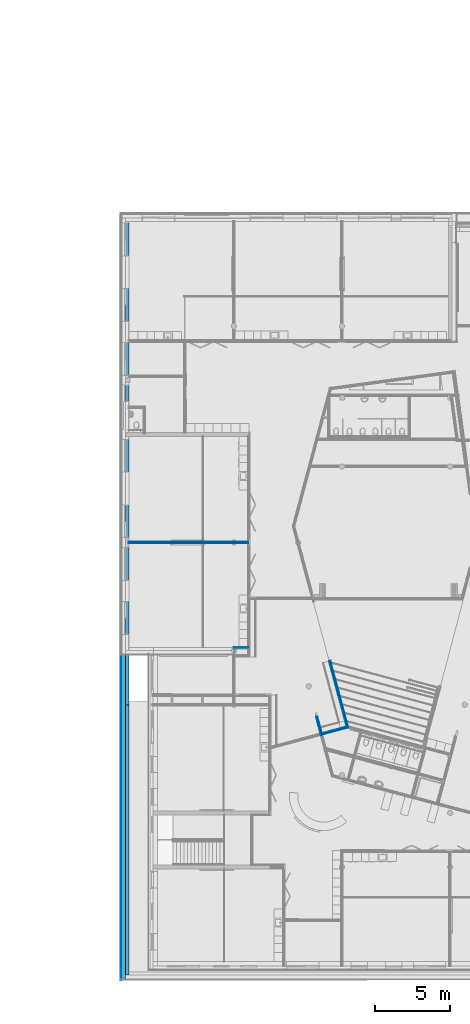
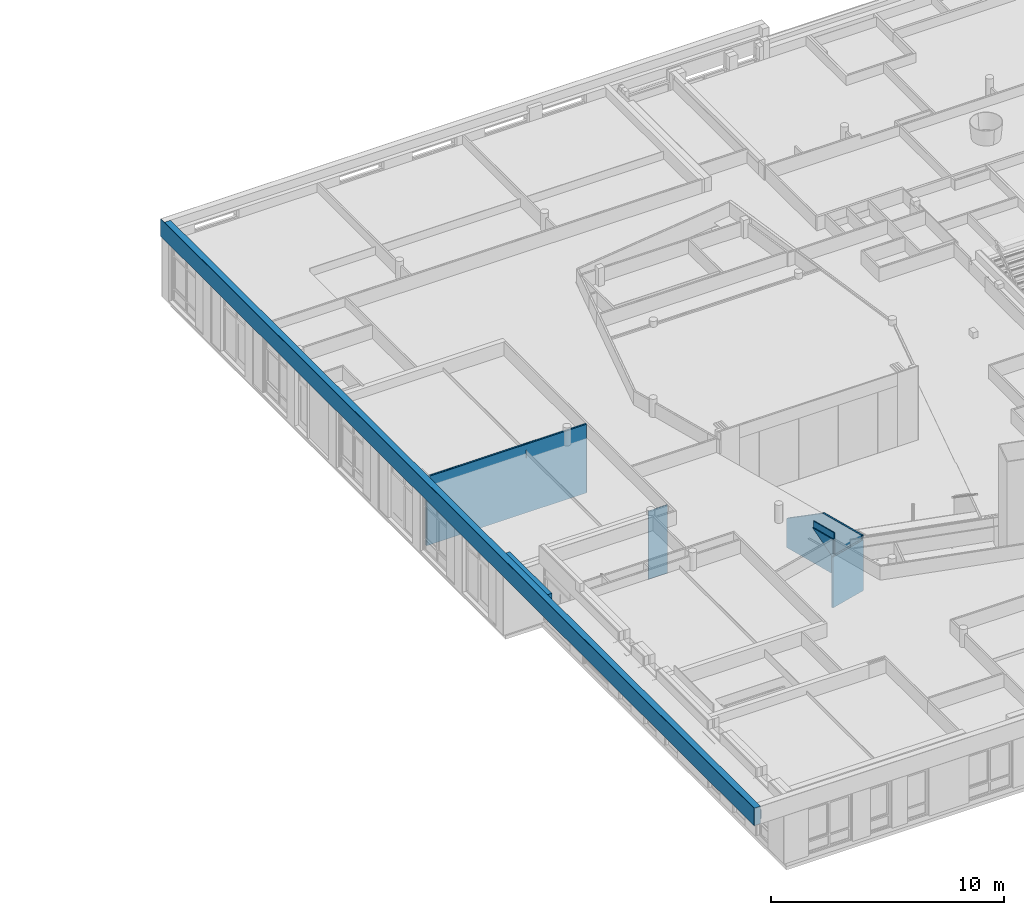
# One storey, part 59 of 167: 16 building element parts, 8 openings, 6 elements without a shape of their own.
"""IFC2X3 building model written with IfcOpenShell, lengths in millimetres."""

from ifc_helpers import new_model, entity, si_unit, converted_unit, derived_unit, money_unit, direction, frame, origin_with_axes, place, context, subcontext, project, spatial, faceted_brep, material, type_object, element, aggregate, save


model = new_model("IFC2X3")

# Units and contexts
model_context = context("Model", 3, precision=0.01, world=origin_with_axes(), true_north=direction((0.0, 1.0)))
plan_context = context("Plan", 3, precision=0.01, world=origin_with_axes(), true_north=direction((0.0, 1.0)))
body_context = subcontext(model_context, "Body", "Model", "MODEL_VIEW")
ifc_project = project(units=[si_unit("LENGTHUNIT", "METRE", prefix="MILLI"), si_unit("AREAUNIT", "SQUARE_METRE"), si_unit("VOLUMEUNIT", "CUBIC_METRE"), converted_unit("PLANEANGLEUNIT", "DEGREE", entity("IfcPlaneAngleMeasure", 0.0174532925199), si_unit("PLANEANGLEUNIT", "RADIAN"), dimensions=[0, 0, 0, 0, 0, 0, 0]), si_unit("SOLIDANGLEUNIT", "STERADIAN"), money_unit("EUR"), converted_unit("TIMEUNIT", "Year", entity("IfcTimeMeasure", 31556926.0), si_unit("TIMEUNIT", "SECOND"), dimensions=[0, 0, 1, 0, 0, 0, 0]), si_unit("MASSUNIT", "GRAM", prefix="KILO"), si_unit("THERMODYNAMICTEMPERATUREUNIT", "DEGREE_CELSIUS"), si_unit("LUMINOUSINTENSITYUNIT", "LUMEN"), si_unit("ENERGYUNIT", "JOULE", prefix="MEGA"), derived_unit("THERMALCONDUCTANCEUNIT", [(si_unit("POWERUNIT", "WATT"), 1), (si_unit("LENGTHUNIT", "METRE"), -1), (si_unit("THERMODYNAMICTEMPERATUREUNIT", "KELVIN"), -1)]), derived_unit("SPECIFICHEATCAPACITYUNIT", [(si_unit("ENERGYUNIT", "JOULE"), 1), (si_unit("MASSUNIT", "GRAM", prefix="KILO"), -1), (si_unit("THERMODYNAMICTEMPERATUREUNIT", "KELVIN"), -1)]), derived_unit("MASSDENSITYUNIT", [(si_unit("MASSUNIT", "GRAM", prefix="KILO"), 1), (si_unit("VOLUMEUNIT", "CUBIC_METRE"), -1)])], contexts=[model_context, plan_context])

# Site, building, storey
site_placement = place(None, origin_with_axes())
site = spatial("IfcSite", under=ifc_project, at=site_placement, Name="Site", CompositionType="ELEMENT")
building_placement = place(site_placement, origin_with_axes())
building = spatial("IfcBuilding", under=site, at=building_placement, Name="Naam gebouw", CompositionType="ELEMENT")
storey_placement = place(building_placement, origin_with_axes())
storey = spatial("IfcBuildingStorey", under=building, at=storey_placement, Name="Begane grond", CompositionType="ELEMENT", Elevation=0.0)

# Wall, building element parts
wall_type_1 = type_object("IfcWallType", Name="_TenW_22_Metalstud 100 enkel gipsvezelplaat 100", PredefinedType="NOTDEFINED")
wall_1_placement = place(storey_placement, frame((0.0, 28800.0, -100.0), z_axis=(0.0, 0.0, 1.0), x_axis=(1.0, 0.0, 0.0)))
wall_1 = element("IfcWall", 1, at=wall_1_placement, inside=storey, type_object=wall_type_1, Name="22_Wand_Wand-x")
ifc_material_1 = material(Name="Gipsplaat watervast")
building_element_part_1_placement = place(wall_1_placement, origin_with_axes())
building_element_part_1 = element("IfcBuildingElementPart", 2, at=building_element_part_1_placement, material=ifc_material_1, Name="Gipsplaat watervast", context=body_context, shape_type="Brep", body=[
    faceted_brep([(8150.0, 37.5, 30.0), (8150.0, 50.0, 30.0), (8150.0, 50.0, 3629.99999994), (8150.0, 37.5, 3629.99999994), (214.0, 50.0, 30.0), (214.0, 37.5, 30.0), (214.0, 50.0, 3630.0), (5125.0, 50.0, 3330.0), (5125.0, 50.0, 2910.0), (5150.0, 50.0, 2910.0), (5150.0, 50.0, 3330.0), (214.0, 37.5, 3630.0), (5150.0, 37.5, 2910.0), (5125.0, 37.5, 2910.0), (5125.0, 37.5, 3330.0), (5150.0, 37.5, 3330.0)], [[[0, 1, 2, 3]], [[4, 1, 0, 5]], [[1, 4, 6, 2], [7, 8, 9, 10]], [[2, 6, 11, 3]], [[5, 0, 3, 11], [12, 13, 14, 15]], [[4, 5, 11, 6]], [[13, 8, 7, 14]], [[12, 9, 8, 13]], [[15, 10, 9, 12]], [[14, 7, 10, 15]]]),
])
ifc_material_2 = material(Name="Isolatie - Steenwol zacht")
building_element_part_2_placement = place(wall_1_placement, origin_with_axes())
building_element_part_2 = element("IfcBuildingElementPart", 3, at=building_element_part_2_placement, material=ifc_material_2, Name="Isolatie - Steenwol zacht", context=body_context, shape_type="Brep", body=[
    faceted_brep([(8162.5, -37.5, 30.0), (8162.5, 37.5, 30.0), (8162.5, 37.5, 3629.99999995), (8162.5, -37.5, 3629.99999995), (214.0, 37.5, 30.0), (214.0, -37.5, 30.0), (214.0, 37.5, 3630.0), (214.0, -37.5, 3630.0)], [[[0, 1, 2, 3]], [[4, 1, 0, 5]], [[1, 4, 6, 2]], [[2, 6, 7, 3]], [[5, 0, 3, 7]], [[4, 5, 7, 6]]]),
])
building_element_part_3_placement = place(wall_1_placement, origin_with_axes())
building_element_part_3 = element("IfcBuildingElementPart", 4, at=building_element_part_3_placement, material=ifc_material_1, Name="Gipsplaat watervast", context=body_context, shape_type="Brep", body=[
    faceted_brep([(8150.0, -50.0, 30.0), (8150.0, -37.5, 30.0), (8150.0, -37.5, 3629.99999994), (8150.0, -50.0, 3629.99999994), (214.0, -37.5, 30.0), (214.0, -50.0, 30.0), (214.0, -37.5, 3630.0), (5125.0, -37.5, 3330.0), (5125.0, -37.5, 2910.0), (5150.0, -37.5, 2910.0), (5150.0, -37.5, 3330.0), (214.0, -50.0, 3630.0), (5150.0, -50.0, 2910.0), (5125.0, -50.0, 2910.0), (5125.0, -50.0, 3330.0), (5150.0, -50.0, 3330.0)], [[[0, 1, 2, 3]], [[4, 1, 0, 5]], [[1, 4, 6, 2], [7, 8, 9, 10]], [[2, 6, 11, 3]], [[5, 0, 3, 11], [12, 13, 14, 15]], [[4, 5, 11, 6]], [[13, 8, 7, 14]], [[12, 9, 8, 13]], [[15, 10, 9, 12]], [[14, 7, 10, 15]]]),
])
aggregate(wall_1, [building_element_part_1, building_element_part_2, building_element_part_3])

# Wall, openings, building element parts
wall_type_2 = type_object("IfcWallType", Name="_TenW_21_E-BOARD_V1_standaard 538", PredefinedType="NOTDEFINED")
wall_2_placement = place(storey_placement, frame((0.0, 50400.0, 3050.0), z_axis=(0.0, 0.0, 1.0), x_axis=(0.0, -1.0, 0.0)))
wall_2 = element("IfcWall", 5, at=wall_2_placement, inside=storey, type_object=wall_type_2, Name="21_Wand_Wand-x")
opening_1_placement = place(wall_2_placement, frame((50400.0, 0.0, -3050.0), z_axis=(0.0, 0.0, 1.0), x_axis=(0.0, 1.0, 0.0)))
element("IfcOpeningElement", 6, at=opening_1_placement, cuts=wall_2, Name="_Lege opening_Doorvoer-x", context=body_context, shape_type="Brep", body=[
    faceted_brep([(-274.0, 45712.35, 3050.0), (-274.0, 45712.35, 3510.0), (752.0, 45712.35, 3510.0), (752.0, 45712.35, 3050.0), (-274.0, 43522.35, 3050.0), (-274.0, 43522.35, 3510.0), (752.0, 43522.35, 3510.0), (752.0, 43522.35, 3050.0)], [[[0, 1, 2, 3]], [[0, 4, 5, 1]], [[1, 5, 6, 2]], [[3, 2, 6, 7]], [[4, 0, 3, 7]], [[5, 4, 7, 6]]]),
])
opening_2_placement = place(wall_2_placement, frame((50400.0, 0.0, -3050.0), z_axis=(0.0, 0.0, 1.0), x_axis=(0.0, 1.0, 0.0)))
element("IfcOpeningElement", 7, at=opening_2_placement, cuts=wall_2, Name="_Lege opening_Doorvoer-x", context=body_context, shape_type="Brep", body=[
    faceted_brep([(-274.0, 42112.05, 3050.0), (-274.0, 42112.05, 3510.0), (752.0, 42112.05, 3510.0), (752.0, 42112.05, 3050.0), (-274.0, 39922.05, 3050.0), (-274.0, 39922.05, 3510.0), (752.0, 39922.05, 3510.0), (752.0, 39922.05, 3050.0)], [[[0, 1, 2, 3]], [[0, 4, 5, 1]], [[1, 5, 6, 2]], [[3, 2, 6, 7]], [[4, 0, 3, 7]], [[5, 4, 7, 6]]]),
])
opening_3_placement = place(wall_2_placement, frame((50400.0, 0.0, -3050.0), z_axis=(0.0, 0.0, 1.0), x_axis=(0.0, 1.0, 0.0)))
element("IfcOpeningElement", 8, at=opening_3_placement, cuts=wall_2, Name="_Lege opening_Doorvoer-x", context=body_context, shape_type="Brep", body=[
    faceted_brep([(-274.0, 35674.85, 3050.0), (-274.0, 35674.85, 3510.0), (752.0, 35674.85, 3510.0), (752.0, 35674.85, 3050.0), (-274.0, 33484.85, 3050.0), (-274.0, 33484.85, 3510.0), (752.0, 33484.85, 3510.0), (752.0, 33484.85, 3050.0)], [[[0, 1, 2, 3]], [[0, 4, 5, 1]], [[1, 5, 6, 2]], [[3, 2, 6, 7]], [[4, 0, 3, 7]], [[5, 4, 7, 6]]]),
])
opening_4_placement = place(wall_2_placement, frame((50400.0, 0.0, -3050.0), z_axis=(0.0, 0.0, 1.0), x_axis=(0.0, 1.0, 0.0)))
element("IfcOpeningElement", 9, at=opening_4_placement, cuts=wall_2, Name="_Lege opening_Doorvoer-x", context=body_context, shape_type="Brep", body=[
    faceted_brep([(-274.0, 31310.6, 3050.0), (-274.0, 31310.6, 3510.0), (752.0, 31310.6, 3510.0), (752.0, 31310.6, 3050.0), (-274.0, 29120.6, 3050.0), (-274.0, 29120.6, 3510.0), (752.0, 29120.6, 3510.0), (752.0, 29120.6, 3050.0)], [[[0, 1, 2, 3]], [[0, 4, 5, 1]], [[1, 5, 6, 2]], [[3, 2, 6, 7]], [[4, 0, 3, 7]], [[5, 4, 7, 6]]]),
])
opening_5_placement = place(wall_2_placement, frame((50400.0, 0.0, -3050.0), z_axis=(0.0, 0.0, 1.0), x_axis=(0.0, 1.0, 0.0)))
element("IfcOpeningElement", 10, at=opening_5_placement, cuts=wall_2, Name="_Lege opening_Doorvoer-x", context=body_context, shape_type="Brep", body=[
    faceted_brep([(-274.0, 28474.0, 3050.0), (-274.0, 28474.0, 3510.0), (752.0, 28474.0, 3510.0), (752.0, 28474.0, 3050.0), (-274.0, 26284.0, 3050.0), (-274.0, 26284.0, 3510.0), (752.0, 26284.0, 3510.0), (752.0, 26284.0, 3050.0)], [[[0, 1, 2, 3]], [[0, 4, 5, 1]], [[1, 5, 6, 2]], [[3, 2, 6, 7]], [[4, 0, 3, 7]], [[5, 4, 7, 6]]]),
])
opening_6_placement = place(wall_2_placement, frame((50400.0, 0.0, -3050.0), z_axis=(0.0, 0.0, 1.0), x_axis=(0.0, 1.0, 0.0)))
element("IfcOpeningElement", 11, at=opening_6_placement, cuts=wall_2, Name="_Lege opening_Doorvoer-x", context=body_context, shape_type="Brep", body=[
    faceted_brep([(-274.0, 24874.8, 3050.0), (-274.0, 24874.8, 3510.0), (752.0, 24874.8, 3510.0), (752.0, 24874.8, 3050.0), (-274.0, 22684.8, 3050.0), (-274.0, 22684.8, 3510.0), (752.0, 22684.8, 3510.0), (752.0, 22684.8, 3050.0)], [[[0, 1, 2, 3]], [[0, 4, 5, 1]], [[1, 5, 6, 2]], [[3, 2, 6, 7]], [[4, 0, 3, 7]], [[5, 4, 7, 6]]]),
])
ifc_material_3 = material(Name="Steen - Kalkzandsteen C")
building_element_part_4_placement = place(wall_2_placement, origin_with_axes())
building_element_part_4 = element("IfcBuildingElementPart", 12, at=building_element_part_4_placement, material=ifc_material_3, Name="Steen - Kalkzandsteen C", context=body_context, shape_type="Brep", body=[
    faceted_brep([(32400.0, 0.0, 910.0), (32400.0, 0.0, 480.0), (32400.0, 214.0, 480.0), (32400.0, 214.0, 910.000000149), (28800.0, 0.0, 910.0), (28800.0, 0.0, 480.0), (214.0, 0.0, 480.0), (214.0, 0.0, 0.0), (4687.65, 0.0, 0.0), (4687.65, 0.0, 460.0), (6877.65, 0.0, 460.0), (6877.65, 0.0, 0.0), (8287.95, 0.0, 0.0), (8287.95, 0.0, 460.0), (10477.95, 0.0, 460.0), (10477.95, 0.0, 0.0), (14725.15, 0.0, 0.0), (14725.15, 0.0, 460.0), (16915.15, 0.0, 460.0), (16915.15, 0.0, 0.0), (19089.4, 0.0, 0.0), (19089.4, 0.0, 460.0), (21279.4, 0.0, 460.0), (21279.4, 0.0, 0.0), (21926.0, 0.0, 0.0), (21926.0, 0.0, 460.0), (24116.0, 0.0, 460.0), (24116.0, 0.0, 0.0), (25525.2, 0.0, 0.0), (25525.2, 0.0, 460.0), (27715.2, 0.0, 460.0), (27715.2, 0.0, 0.0), (50400.0, 0.0, 0.0), (50400.0, 0.0, 480.0), (50400.0, 214.0, 480.0), (50400.0, 214.0, 0.0), (27715.2, 214.0, 0.0), (27715.2, 214.0, 460.0), (25525.2, 214.0, 460.0), (25525.2, 214.0, 0.0), (24116.0, 214.0, 0.0), (24116.0, 214.0, 460.0), (21926.0, 214.0, 460.0), (21926.0, 214.0, 0.0), (21279.4, 214.0, 0.0), (21279.4, 214.0, 460.0), (19089.4, 214.0, 460.0), (19089.4, 214.0, 0.0), (16915.15, 214.0, 0.0), (16915.15, 214.0, 460.0), (14725.15, 214.0, 460.0), (14725.15, 214.0, 0.0), (10477.95, 214.0, 0.0), (10477.95, 214.0, 460.0), (8287.95, 214.0, 460.0), (8287.95, 214.0, 0.0), (6877.65, 214.0, 0.0), (6877.65, 214.0, 460.0), (4687.65, 214.0, 460.0), (4687.65, 214.0, 0.0), (214.0, 214.0, 0.0), (214.0, 214.0, 480.0), (28800.0, 214.0, 480.0), (28800.0, 214.0, 910.0)], [[[0, 1, 2, 3]], [[1, 0, 4, 5, 6, 7, 8, 9, 10, 11, 12, 13, 14, 15, 16, 17, 18, 19, 20, 21, 22, 23, 24, 25, 26, 27, 28, 29, 30, 31, 32, 33]], [[34, 2, 1, 33]], [[2, 34, 35, 36, 37, 38, 39, 40, 41, 42, 43, 44, 45, 46, 47, 48, 49, 50, 51, 52, 53, 54, 55, 56, 57, 58, 59, 60, 61, 62, 63, 3]], [[0, 3, 63, 4]], [[62, 5, 4, 63]], [[62, 61, 6, 5]], [[6, 61, 60, 7]], [[8, 7, 60, 59]], [[9, 8, 59, 58]], [[10, 9, 58, 57]], [[11, 10, 57, 56]], [[11, 56, 55, 12]], [[13, 12, 55, 54]], [[14, 13, 54, 53]], [[15, 14, 53, 52]], [[15, 52, 51, 16]], [[17, 16, 51, 50]], [[18, 17, 50, 49]], [[19, 18, 49, 48]], [[19, 48, 47, 20]], [[21, 20, 47, 46]], [[22, 21, 46, 45]], [[23, 22, 45, 44]], [[23, 44, 43, 24]], [[25, 24, 43, 42]], [[26, 25, 42, 41]], [[27, 26, 41, 40]], [[27, 40, 39, 28]], [[29, 28, 39, 38]], [[30, 29, 38, 37]], [[31, 30, 37, 36]], [[35, 32, 31, 36]], [[34, 33, 32, 35]]]),
])
building_element_part_5_placement = place(wall_2_placement, origin_with_axes())
building_element_part_5 = element("IfcBuildingElementPart", 13, at=building_element_part_5_placement, material=ifc_material_2, Name="Isolatie - Steenwol zacht", context=body_context, shape_type="Brep", body=[
    faceted_brep([(4687.65, 0.0, 0.0), (0.0, 0.0, 0.0), (0.0, 0.0, 910.0), (50704.0, 0.0, 910.0), (50704.0, 0.0, 0.0), (27715.2, 0.0, 0.0), (27715.2, 0.0, 460.0), (25525.2, 0.0, 460.0), (25525.2, 0.0, 0.0), (24116.0, 0.0, 0.0), (24116.0, 0.0, 460.0), (21926.0, 0.0, 460.0), (21926.0, 0.0, 0.0), (21279.4, 0.0, 0.0), (21279.4, 0.0, 460.0), (19089.4, 0.0, 460.0), (19089.4, 0.0, 0.0), (16915.15, 0.0, 0.0), (16915.15, 0.0, 460.0), (14725.15, 0.0, 460.0), (14725.15, 0.0, 0.0), (10477.95, 0.0, 0.0), (10477.95, 0.0, 460.0), (8287.95, 0.0, 460.0), (8287.95, 0.0, 0.0), (6877.65, 0.0, 0.0), (6877.65, 0.0, 460.0), (4687.65, 0.0, 460.0), (50704.0, -304.0, 0.0), (0.0, -304.0, 0.0), (4687.65, -274.0, 0.0), (6877.65, -274.0, 0.0), (8287.95, -274.0, 0.0), (10477.95, -274.0, 0.0), (14725.15, -274.0, 0.0), (16915.15, -274.0, 0.0), (19089.4, -274.0, 0.0), (21279.4, -274.0, 0.0), (21926.0, -274.0, 0.0), (24116.0, -274.0, 0.0), (25525.2, -274.0, 0.0), (27715.2, -274.0, 0.0), (0.0, -304.0, 910.0), (50704.0, -304.0, 910.0), (27715.2, -274.0, 460.0), (25525.2, -274.0, 460.0), (24116.0, -274.0, 460.0), (21926.0, -274.0, 460.0), (21279.4, -274.0, 460.0), (19089.4, -274.0, 460.0), (16915.15, -274.0, 460.0), (14725.15, -274.0, 460.0), (10477.95, -274.0, 460.0), (8287.95, -274.0, 460.0), (6877.65, -274.0, 460.0), (4687.65, -274.0, 460.0)], [[[0, 1, 2, 3, 4, 5, 6, 7, 8, 9, 10, 11, 12, 13, 14, 15, 16, 17, 18, 19, 20, 21, 22, 23, 24, 25, 26, 27]], [[28, 29, 1, 0, 30, 31, 25, 24, 32, 33, 21, 20, 34, 35, 17, 16, 36, 37, 13, 12, 38, 39, 9, 8, 40, 41, 5, 4]], [[29, 42, 2, 1]], [[3, 2, 42, 43]], [[28, 4, 3, 43]], [[41, 44, 6, 5]], [[44, 45, 7, 6]], [[45, 40, 8, 7]], [[39, 46, 10, 9]], [[46, 47, 11, 10]], [[47, 38, 12, 11]], [[37, 48, 14, 13]], [[48, 49, 15, 14]], [[49, 36, 16, 15]], [[35, 50, 18, 17]], [[50, 51, 19, 18]], [[51, 34, 20, 19]], [[33, 52, 22, 21]], [[52, 53, 23, 22]], [[53, 32, 24, 23]], [[31, 54, 26, 25]], [[54, 55, 27, 26]], [[55, 30, 0, 27]], [[43, 42, 29, 28]], [[55, 54, 31, 30]], [[53, 52, 33, 32]], [[51, 50, 35, 34]], [[49, 48, 37, 36]], [[47, 46, 39, 38]], [[45, 44, 41, 40]]]),
    faceted_brep([(27697.2, -256.0, 490.0), (27697.2, -256.0, 500.0), (27697.2, -16.0, 500.0), (27697.2, -16.0, 490.0), (25525.2, -256.0, 490.0), (25525.2, -256.0, 500.0), (25525.2, -16.0, 500.0), (25525.2, -16.0, 490.0)], [[[0, 1, 2, 3]], [[4, 5, 1, 0]], [[1, 5, 6, 2]], [[3, 2, 6, 7]], [[0, 3, 7, 4]], [[7, 6, 5, 4]]]),
    faceted_brep([(24098.0, -256.0, 490.0), (24098.0, -256.0, 500.0), (24098.0, -16.0, 500.0), (24098.0, -16.0, 490.0), (21926.0, -256.0, 490.0), (21926.0, -256.0, 500.0), (21926.0, -16.0, 500.0), (21926.0, -16.0, 490.0)], [[[0, 1, 2, 3]], [[4, 5, 1, 0]], [[1, 5, 6, 2]], [[3, 2, 6, 7]], [[0, 3, 7, 4]], [[7, 6, 5, 4]]]),
    faceted_brep([(16897.15, -256.0, 490.0), (16897.15, -256.0, 500.0), (16897.15, -16.0, 500.0), (16897.15, -16.0, 490.0), (14725.15, -256.0, 490.0), (14725.15, -256.0, 500.0), (14725.15, -16.0, 500.0), (14725.15, -16.0, 490.0)], [[[0, 1, 2, 3]], [[4, 5, 1, 0]], [[1, 5, 6, 2]], [[3, 2, 6, 7]], [[0, 3, 7, 4]], [[7, 6, 5, 4]]]),
    faceted_brep([(21261.4, -256.0, 490.0), (21261.4, -256.0, 500.0), (21261.4, -16.0, 500.0), (21261.4, -16.0, 490.0), (19089.4, -256.0, 490.0), (19089.4, -256.0, 500.0), (19089.4, -16.0, 500.0), (19089.4, -16.0, 490.0)], [[[0, 1, 2, 3]], [[4, 5, 1, 0]], [[1, 5, 6, 2]], [[3, 2, 6, 7]], [[0, 3, 7, 4]], [[7, 6, 5, 4]]]),
    faceted_brep([(6859.65, -256.0, 490.0), (6859.65, -256.0, 500.0), (6859.65, -16.0, 500.0), (6859.65, -16.0, 490.0), (4687.65, -256.0, 490.0), (4687.65, -256.0, 500.0), (4687.65, -16.0, 500.0), (4687.65, -16.0, 490.0)], [[[0, 1, 2, 3]], [[4, 5, 1, 0]], [[1, 5, 6, 2]], [[3, 2, 6, 7]], [[0, 3, 7, 4]], [[7, 6, 5, 4]]]),
    faceted_brep([(10459.95, -256.0, 490.0), (10459.95, -256.0, 500.0), (10459.95, -16.0, 500.0), (10459.95, -16.0, 490.0), (8287.95, -256.0, 490.0), (8287.95, -256.0, 500.0), (8287.95, -16.0, 500.0), (8287.95, -16.0, 490.0)], [[[0, 1, 2, 3]], [[4, 5, 1, 0]], [[1, 5, 6, 2]], [[3, 2, 6, 7]], [[0, 3, 7, 4]], [[7, 6, 5, 4]]]),
])
ifc_material_4 = material(Name="_TenW_21_Steen - Baksteen")
building_element_part_6_placement = place(wall_2_placement, origin_with_axes())
building_element_part_6 = element("IfcBuildingElementPart", 14, at=building_element_part_6_placement, material=ifc_material_4, Name="_TenW_21_Steen - Baksteen", context=body_context, shape_type="Brep", body=[
    faceted_brep([(-304.0, -304.0, 0.0), (-304.0, -304.0, 910.0), (50724.0, -304.0, 910.0), (50724.0, -304.0, 0.0), (-304.0, -324.0, 910.0), (-304.0, -324.0, 0.0), (50724.0, -324.0, 910.0), (50724.0, -324.0, 0.0)], [[[0, 1, 2, 3]], [[4, 1, 0, 5]], [[1, 4, 6, 2]], [[3, 2, 6, 7]], [[5, 0, 3, 7]], [[4, 5, 7, 6]]]),
])
aggregate(wall_2, [building_element_part_4, building_element_part_5, building_element_part_6])

# Wall, opening, building element parts
wall_3_placement = place(storey_placement, frame((13592.4045714, 20914.9670721, -100.0), z_axis=(0.0, 0.0, 1.0), x_axis=(0.258819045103, -0.965925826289, 0.0)))
wall_3 = element("IfcWall", 15, at=wall_3_placement, inside=storey, type_object=wall_type_1, Name="22_Wand_Wand-x")
opening_7_placement = place(wall_3_placement, frame((1594.39830147, 0.0, 1460.0), z_axis=(0.0, 0.0, 1.0), x_axis=(1.0, 0.0, 0.0)))
element("IfcOpeningElement", 16, at=opening_7_placement, cuts=wall_3, Name="31_Raam_-", context=body_context, shape_type="Brep", body=[
    faceted_brep([(1754.57155422, 100.0, 2160.0), (-1754.57155422, 100.0, 2160.0), (-1754.57155422, -100.0, 2160.0), (1754.57155422, -100.0, 2160.0), (-1754.57155422, 100.0, 0.0), (-1754.57155422, -100.0, 0.0)], [[[0, 1, 2, 3]], [[0, 4, 1]], [[1, 4, 5, 2]], [[3, 2, 5]], [[4, 0, 3, 5]]]),
])
building_element_part_7_placement = place(wall_3_placement, origin_with_axes())
building_element_part_7 = element("IfcBuildingElementPart", 17, at=building_element_part_7_placement, material=ifc_material_1, Name="Gipsplaat watervast", context=body_context, shape_type="Brep", body=[
    faceted_brep([(0.0, 50.0, 1558.59222473), (2195.50151912, 50.0000004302, 2910.0), (4562.56722299, 50.0000008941, 2910.0), (4562.56722299, 50.0000008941, 2730.0), (4533.69971005, 50.0000008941, 2730.0), (4533.69971005, 50.0000008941, 100.0), (4562.56722299, 50.0, 100.0), (4562.56722299, 50.0, 30.0), (0.0, 50.0, 30.0), (2195.50151912, 37.5, 2910.0), (0.0, 37.5, 1558.59222473), (4562.56722299, 37.5, 2910.0), (4562.56722299, 37.5, 2730.0), (4526.48283117, 37.5, 2730.0), (4526.48283117, 37.5, 100.0), (4562.56722299, 37.5, 100.0), (4562.56722299, 37.5, 30.0), (0.0, 37.5, 30.0)], [[[0, 1, 2, 3, 4, 5, 6, 7, 8]], [[9, 1, 0, 10]], [[1, 9, 11, 2]], [[12, 3, 2, 11]], [[12, 13, 4, 3]], [[5, 4, 13, 14]], [[5, 14, 15, 6]], [[7, 6, 15, 16]], [[7, 16, 17, 8]], [[10, 0, 8, 17]], [[9, 10, 17, 16, 15, 14, 13, 12, 11]]]),
])
building_element_part_8_placement = place(wall_3_placement, origin_with_axes())
building_element_part_8 = element("IfcBuildingElementPart", 18, at=building_element_part_8_placement, material=ifc_material_2, Name="Isolatie - Steenwol zacht", context=body_context, shape_type="Brep", body=[
    faceted_brep([(0.0, 37.5, 1558.59222473), (2195.50151912, 37.5, 2910.0), (4562.56722299, 37.5, 2910.0), (4562.56722299, 37.5, 2730.0), (4540.9165879, 37.5, 2730.0), (4540.9165879, 37.5, 100.0), (4562.56722299, 37.5, 100.0), (4562.56722299, 37.5, 30.0), (0.0, 37.5, 30.0), (2195.50151912, -37.5, 2910.0), (0.0, -37.5, 1558.59222473), (4562.56722299, -37.5, 2910.0), (4562.56722299, -37.5, 2730.0), (4497.61531771, -37.5, 2730.0), (4497.61531771, -37.5, 100.0), (4562.56722299, -37.5, 100.0), (4562.56722299, -37.5, 30.0), (0.0, -37.5, 30.0)], [[[0, 1, 2, 3, 4, 5, 6, 7, 8]], [[9, 1, 0, 10]], [[1, 9, 11, 2]], [[12, 3, 2, 11]], [[4, 3, 12, 13]], [[5, 4, 13, 14]], [[15, 6, 5, 14]], [[7, 6, 15, 16]], [[7, 16, 17, 8]], [[10, 0, 8, 17]], [[9, 10, 17, 16, 15, 14, 13, 12, 11]]]),
])
building_element_part_9_placement = place(wall_3_placement, origin_with_axes())
building_element_part_9 = element("IfcBuildingElementPart", 19, at=building_element_part_9_placement, material=ifc_material_1, Name="Gipsplaat watervast", context=body_context, shape_type="Brep", body=[
    faceted_brep([(0.0, -37.5, 1558.59222473), (2195.50151912, -37.5, 2910.0), (4562.56722299, -37.5, 2910.0), (4562.56722299, -37.5, 2730.0), (4584.21785809, -37.5, 2730.0), (4584.21785809, -37.5, 100.0), (4562.56722299, -37.5, 100.0), (4562.56722299, -37.5, 30.0), (0.0, -37.5, 30.0), (2195.50151912, -50.0, 2910.0), (0.0, -50.0, 1558.59222473), (4562.56722299, -50.0, 2910.0), (4562.56722299, -50.0, 2730.0), (4577.00097972, -50.0, 2730.0), (4577.00097972, -50.0, 100.0), (4562.56722299, -50.0, 100.0), (4562.56722299, -50.0, 30.0), (0.0, -50.0, 30.0)], [[[0, 1, 2, 3, 4, 5, 6, 7, 8]], [[9, 1, 0, 10]], [[1, 9, 11, 2]], [[12, 3, 2, 11]], [[13, 4, 3, 12]], [[5, 4, 13, 14]], [[5, 14, 15, 6]], [[7, 6, 15, 16]], [[7, 16, 17, 8]], [[10, 0, 8, 17]], [[9, 10, 17, 16, 15, 14, 13, 12, 11]]]),
])
aggregate(wall_3, [building_element_part_7, building_element_part_8, building_element_part_9])

# Wall, building element parts
wall_4_placement = place(storey_placement, frame((14775.0994361, 16507.8655572, -100.0), z_axis=(0.0, 0.0, 1.0), x_axis=(-0.965925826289, -0.258819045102, 0.0)))
wall_4 = element("IfcWall", 20, at=wall_4_placement, inside=storey, type_object=wall_type_1, Name="22_Wand_Wand-x")
building_element_part_10_placement = place(wall_4_placement, origin_with_axes())
building_element_part_10 = element("IfcBuildingElementPart", 21, at=building_element_part_10_placement, material=ifc_material_1, Name="Gipsplaat watervast", context=body_context, shape_type="Brep", body=[
    faceted_brep([(1851.12765695, 50.0, 30.0), (0.0, 50.0, 30.0), (0.0, 50.0, 2700.0), (1851.12765695, 50.0, 2700.0), (0.0, 37.5, 30.0), (1851.12765695, 37.5, 30.0), (0.0, 37.5, 100.0), (0.0, 43.8438695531, 100.0), (0.0, 43.8438695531, 2700.0), (10.9879043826, 37.5, 2700.0), (1851.12765695, 37.5, 2700.0), (10.9879043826, 37.5, 100.0)], [[[0, 1, 2, 3]], [[4, 1, 0, 5]], [[1, 4, 6, 7, 8, 2]], [[2, 8, 9, 10, 3]], [[5, 0, 3, 10]], [[4, 5, 10, 9, 11, 6]], [[11, 7, 6]], [[11, 9, 8, 7]]]),
])
building_element_part_11_placement = place(wall_4_placement, origin_with_axes())
building_element_part_11 = element("IfcBuildingElementPart", 22, at=building_element_part_11_placement, material=ifc_material_2, Name="Isolatie - Steenwol zacht", context=body_context, shape_type="Brep", body=[
    faceted_brep([(1851.12765695, 37.5, 30.0), (0.0, 37.5, 30.0), (0.0, 37.5, 2700.0), (1851.12765695, 37.5, 2700.0), (0.0, -37.5, 30.0), (1851.12765695, -37.5, 30.0), (0.0, -37.5, 2700.0), (1851.12765695, -37.5, 2700.0)], [[[0, 1, 2, 3]], [[4, 1, 0, 5]], [[1, 4, 6, 2]], [[6, 7, 3, 2]], [[5, 0, 3, 7]], [[4, 5, 7, 6]]]),
])
building_element_part_12_placement = place(wall_4_placement, origin_with_axes())
building_element_part_12 = element("IfcBuildingElementPart", 23, at=building_element_part_12_placement, material=ifc_material_1, Name="Gipsplaat watervast", context=body_context, shape_type="Brep", body=[
    faceted_brep([(1851.12765695, -37.5, 30.0), (0.0, -37.5, 30.0), (0.0, -37.5, 100.0), (51.7537087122, -37.5, 100.0), (51.7537087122, -37.5, 2700.0), (1851.12765695, -37.5, 2700.0), (0.0, -50.0, 30.0), (1851.12765695, -50.0, 30.0), (0.0, -50.0, 2700.0), (0.0, -42.7586708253, 2700.0), (0.0, -42.7586708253, 100.0), (51.7537087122, -50.0, 100.0), (12.5423500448, -50.0, 100.0), (51.7537087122, -50.0, 2700.0), (1851.12765695, -50.0, 2700.0), (12.5423500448, -50.0, 2700.0)], [[[0, 1, 2, 3, 4, 5]], [[6, 1, 0, 7]], [[1, 6, 8, 9, 10, 2]], [[11, 3, 2, 10, 12]], [[11, 13, 4, 3]], [[5, 4, 13, 14]], [[7, 0, 5, 14]], [[6, 7, 14, 13, 11, 12, 15, 8]], [[8, 15, 9]], [[12, 10, 9, 15]]]),
])
aggregate(wall_4, [building_element_part_10, building_element_part_11, building_element_part_12])

# Wall, building element part
wall_5_placement = place(storey_placement, frame((8200.0, 21764.0, -100.0), z_axis=(0.0, 0.0, 1.0), x_axis=(-1.0, 0.0, 0.0)))
wall_5 = element("IfcWall", 24, at=wall_5_placement, inside=storey, type_object=wall_type_1, Name="22_Wand_Wand-x")
building_element_part_13_placement = place(wall_5_placement, origin_with_axes())
building_element_part_13 = element("IfcBuildingElementPart", 25, at=building_element_part_13_placement, material=ifc_material_1, Name="Gipsplaat watervast", context=body_context, shape_type="Brep", body=[
    faceted_brep([(50.0, -37.5, 30.0), (50.0, -50.0, 30.0), (50.0, -50.0, 3629.99999752), (50.0, -37.5, 3629.99999752), (1000.0, -50.0, 30.0), (1000.0, -37.5, 30.0), (1000.0, -50.0, 3629.99999752), (1000.0, -37.5, 3629.99999752)], [[[0, 1, 2, 3]], [[4, 1, 0, 5]], [[1, 4, 6, 2]], [[2, 6, 7, 3]], [[5, 0, 3, 7]], [[4, 5, 7, 6]]]),
])
aggregate(wall_5, [building_element_part_13])

# Wall, opening, building element parts
wall_6_placement = place(storey_placement, frame((12653.5518217, 17464.1472855, 2608.50597613), z_axis=(0.0, 0.0, 1.0), x_axis=(0.258819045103, -0.965925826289, 0.0)))
wall_6 = element("IfcWall", 26, at=wall_6_placement, inside=storey, type_object=wall_type_1, Name="22_Wand_Wand-x")
opening_8_placement = place(wall_6_placement, frame((767.590813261, 0.0, -38.3398799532), z_axis=(0.0, 0.0, 1.0), x_axis=(1.0, 0.0, 0.0)))
element("IfcOpeningElement", 27, at=opening_8_placement, cuts=wall_6, Name="31_Raam_Merk-x", context=body_context, shape_type="Brep", body=[
    faceted_brep([(767.590813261, 300.0, 0.0), (-767.590813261, 300.0, 1168.23869505), (-767.590813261, -300.0, 1168.23869505), (767.590813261, -300.0, 0.0), (-767.590813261, 300.0, 0.0), (-767.590813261, -300.0, 0.0)], [[[0, 1, 2, 3]], [[0, 4, 1]], [[1, 4, 5, 2]], [[3, 2, 5]], [[4, 0, 3, 5]]]),
])
building_element_part_14_placement = place(wall_6_placement, origin_with_axes())
building_element_part_14 = element("IfcBuildingElementPart", 28, at=building_element_part_14_placement, material=ifc_material_1, Name="Gipsplaat watervast", context=body_context, shape_type="Brep", body=[
    faceted_brep([(1484.79921793, 37.5, 0.0), (1484.79921793, 50.0, 0.0), (1535.18162652, 50.0, 0.0), (1535.18162652, 37.5, 0.0), (273.864585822, 50.0, 921.494023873), (273.864585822, 37.5, 921.494023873), (275.090766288, 50.0, 921.494023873), (275.090766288, 50.0, 1251.49402387), (1535.18162652, 50.0, 1251.49402387), (1535.18162652, 50.0, 271.494023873), (1515.09077404, 50.0, 271.494023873), (1515.09077404, 50.0, 21.4940238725), (1535.18162652, 50.0, 21.4940238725), (1535.18162652, 49.9874342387, 21.4940238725), (1535.18162652, 49.9874342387, 271.494023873), (1535.18162652, 37.5, 1251.49402387), (275.090766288, 37.5, 1251.49402387), (275.090766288, 37.5, 921.494023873), (1515.09076629, 49.9889726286, 271.494023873), (1515.09076629, 49.9889726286, 21.4940238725)], [[[0, 1, 2, 3]], [[4, 1, 0, 5]], [[1, 4, 6, 7, 8, 9, 10, 11, 12, 2]], [[3, 2, 12, 13, 14, 9, 8, 15]], [[5, 0, 3, 15, 16, 17]], [[4, 5, 17, 6]], [[6, 17, 16, 7]], [[16, 15, 8, 7]], [[9, 14, 18, 10]], [[10, 18, 19, 11]], [[12, 11, 19, 13]], [[13, 19, 18, 14]]]),
])
building_element_part_15_placement = place(wall_6_placement, origin_with_axes())
building_element_part_15 = element("IfcBuildingElementPart", 29, at=building_element_part_15_placement, material=ifc_material_2, Name="Isolatie - Steenwol zacht", context=body_context, shape_type="Brep", body=[
    faceted_brep([(1484.79921793, -37.5, 0.0), (1484.79921793, 37.5, 0.0), (1535.18162652, 37.5, 0.0), (1535.18162652, -37.5, 0.0), (273.864585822, 37.5, 921.494023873), (273.864585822, -37.5, 921.494023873), (275.090766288, 37.5, 921.494023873), (275.090766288, 37.5, 1251.49402387), (1535.18162652, 37.5, 1251.49402387), (1535.18162652, 0.0, 1251.49402387), (1535.18162652, 0.0, 921.494023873), (1535.18162652, -37.5, 921.494023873), (275.090766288, 0.0, 921.494023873), (275.090766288, 0.0, 1251.49402387)], [[[0, 1, 2, 3]], [[4, 1, 0, 5]], [[1, 4, 6, 7, 8, 2]], [[2, 8, 9, 10, 11, 3]], [[5, 0, 3, 11]], [[4, 5, 11, 10, 12, 6]], [[6, 12, 13, 7]], [[13, 9, 8, 7]], [[10, 9, 13, 12]]]),
])
building_element_part_16_placement = place(wall_6_placement, origin_with_axes())
building_element_part_16 = element("IfcBuildingElementPart", 30, at=building_element_part_16_placement, material=ifc_material_1, Name="Gipsplaat watervast", context=body_context, shape_type="Brep", body=[
    faceted_brep([(1484.79921793, -50.0, 0.0), (1484.79921793, -37.5, 0.0), (1535.18162652, -37.5, 0.0), (1535.18162652, -50.0, 0.0), (273.864585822, -37.5, 921.494023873), (273.864585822, -50.0, 921.494023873), (1535.18162652, -37.5, 921.494023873), (1535.18162652, -50.0, 921.494023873)], [[[0, 1, 2, 3]], [[4, 1, 0, 5]], [[1, 4, 6, 2]], [[7, 3, 2, 6]], [[5, 0, 3, 7]], [[4, 5, 7, 6]]]),
])
aggregate(wall_6, [building_element_part_14, building_element_part_15, building_element_part_16])

save(model, "model.ifc")
